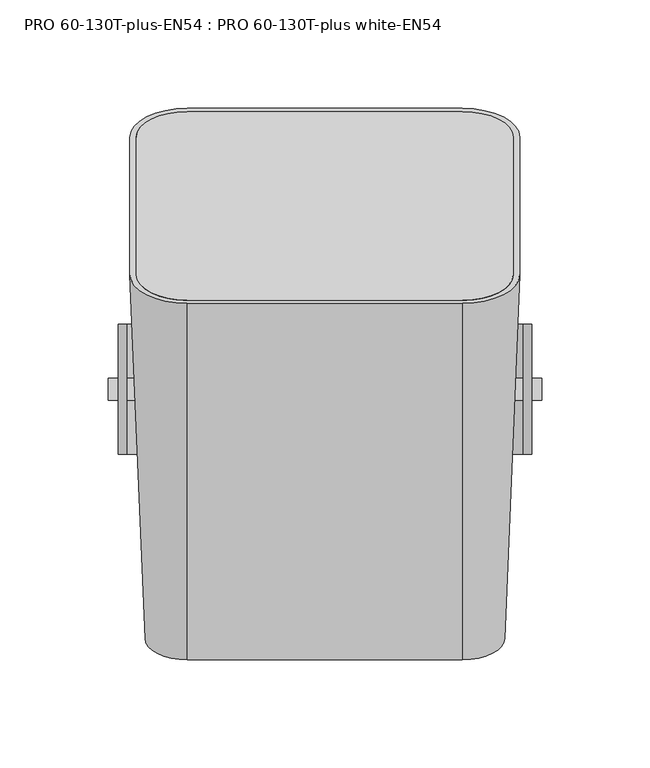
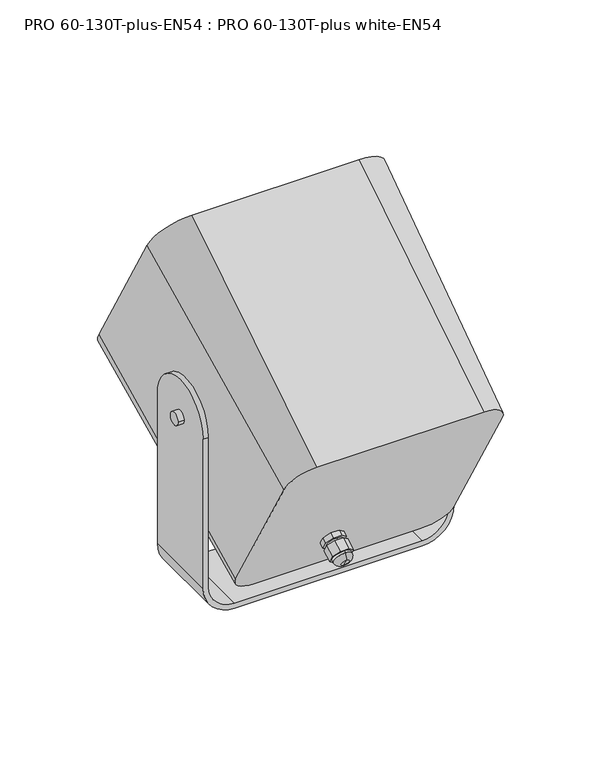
"""IFC4 building model written with IfcOpenShell, lengths in millimetres: proxy geometry, PRO 60-130T-plus-EN54 : PRO 60-130T-plus white-EN54."""

from ifc_helpers import new_model, si_unit, point, frame, frame_2d, origin, place, context, project, spatial, polyline, circle_curve, ellipse_curve, trimmed, segment, composite_curve, outline, extrude, source, transform, mapped, element, save
from ifc_brep_helpers import plane_surface, cylinder_surface, revolved_surface, advanced_brep


def pro_60_130t_plus_en54_pro_60_130t_plus_white_en54_f35f9c04(model_context):
    return source(origin(), model_context, "Body", "SolidModel", [
        advanced_brep(
        [(-6.5506555, -64.9756664, 56.0416911), (-11.236947, -67.3188122, 60.1001386), (-17.864364, -67.3188122, 60.1001386), (-22.5506555, -64.9756664, 56.0416911), (-22.5506555, -61.6619579, 50.3021797), (-17.864364, -59.3188122, 46.2437322), (-11.236947, -59.3188122, 46.2437322), (-6.5506555, -61.6619579, 50.3021797), (-14.5506555, -66.3188122, 58.3680878), (-14.5506555, -60.3188122, 47.975783), (-6.5506555, -61.5115648, 58.0416911), (-6.5506555, -58.1978563, 52.3021797), (-11.236947, -55.8547106, 48.2437322), (-17.864364, -55.8547106, 48.2437322), (-22.5506555, -58.1978563, 52.3021797), (-22.5506555, -61.5115648, 58.0416911), (-17.864364, -63.8547106, 62.1001386), (-11.236947, -63.8547106, 62.1001386), (-14.5506555, -62.050863, 46.975783), (-14.5506555, -68.050863, 57.3680878), (-6.5506555, -74.1555357, 50.7416911), (-11.236947, -76.4986814, 54.8001386), (-17.864364, -76.4986814, 54.8001386), (-22.5506555, -74.1555357, 50.7416911), (-22.5506555, -70.8418272, 45.0021797), (-17.864364, -68.4986814, 40.9437322), (-11.236947, -68.4986814, 40.9437322), (-6.5506555, -70.8418272, 45.0021797), (-14.5506555, -75.9986814, 53.9341132), (-14.5506555, -68.9986814, 41.8097576), (-6.5506555, -66.7077172, 55.0416911), (-6.5506555, -63.3940087, 49.3021797), (-11.236947, -61.050863, 45.2437322), (-17.864364, -61.050863, 45.2437322), (-22.5506555, -63.3940087, 49.3021797), (-22.5506555, -66.7077172, 55.0416911), (-17.864364, -69.050863, 59.1001386), (-11.236947, -69.050863, 59.1001386), (-14.5506555, -70.2977196, 41.0597576), (-14.5506555, -77.2977196, 53.1841132), (-14.5506555, -78.7618212, 47.7200116), (-14.5506555, -77.2618212, 45.1219354), (-14.5506555, -75.7618212, 42.5238592)],
        [
            (0, 1),
            (1, 2),
            (2, 3),
            (3, 4),
            (4, 5),
            (5, 6),
            (6, 7),
            (7, 0),
            (8, 9, circle_curve(frame((-14.5506555, -63.3188122, 53.1719354), z_axis=(0.0, 0.8660254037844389, 0.4999999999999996), x_axis=(0.0, -0.4999999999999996, 0.8660254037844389)), 6.0)),
            (9, 8, circle_curve(frame((-14.5506555, -63.3188122, 53.1719354), z_axis=(0.0, 0.8660254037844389, 0.4999999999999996), x_axis=(0.0, -0.4999999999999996, 0.8660254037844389)), 6.0)),
            (10, 11),
            (11, 12),
            (12, 13),
            (13, 14),
            (14, 15),
            (15, 16),
            (16, 17),
            (17, 10),
            (18, 19, circle_curve(frame((-14.5506555, -65.050863, 52.1719354), z_axis=(0.0, 0.8660254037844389, 0.4999999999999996), x_axis=(0.0, -0.4999999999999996, 0.8660254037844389)), 6.0)),
            (19, 8),
            (9, 18),
            (19, 18, circle_curve(frame((-14.5506555, -65.050863, 52.1719354), z_axis=(0.0, 0.8660254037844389, 0.4999999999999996), x_axis=(0.0, -0.4999999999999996, 0.8660254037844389)), 6.0)),
            (20, 21),
            (21, 22),
            (22, 23),
            (23, 24),
            (24, 25),
            (25, 26),
            (26, 27),
            (27, 20),
            (28, 29, circle_curve(frame((-14.5506555, -72.4986814, 47.8719354), z_axis=(0.0, 0.8660254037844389, 0.4999999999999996), x_axis=(0.0, -0.4999999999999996, 0.8660254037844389)), 7.0)),
            (29, 28, circle_curve(frame((-14.5506555, -72.4986814, 47.8719354), z_axis=(0.0, 0.8660254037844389, 0.4999999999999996), x_axis=(0.0, -0.4999999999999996, 0.8660254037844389)), 7.0)),
            (30, 31),
            (31, 32),
            (32, 33),
            (33, 34),
            (34, 35),
            (35, 36),
            (36, 37),
            (37, 30),
            (38, 39, circle_curve(frame((-14.5506555, -73.7977196, 47.1219354), z_axis=(0.0, 0.8660254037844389, 0.4999999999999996), x_axis=(0.0, -0.4999999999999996, 0.8660254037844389)), 7.0)),
            (39, 28),
            (29, 38),
            (39, 38, circle_curve(frame((-14.5506555, -73.7977196, 47.1219354), z_axis=(0.0, 0.8660254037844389, 0.4999999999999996), x_axis=(0.0, -0.4999999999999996, 0.8660254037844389)), 7.0)),
            (40, 41),
            (41, 42),
            (42, 40, circle_curve(frame((-14.5506555, -77.2618212, 45.1219354), z_axis=(0.0, -0.8660254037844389, -0.4999999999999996), x_axis=(0.0, 0.4999999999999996, -0.8660254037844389)), 3.0)),
            (40, 42, circle_curve(frame((-14.5506555, -77.2618212, 45.1219354), z_axis=(0.0, -0.8660254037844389, -0.4999999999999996), x_axis=(0.0, 0.4999999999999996, -0.8660254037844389)), 3.0)),
            (42, 38, circle_curve(frame((-14.5506555, -72.2977196, 44.5238592), z_axis=(1.0, 0.0, 0.0), x_axis=(0.0, -0.4999999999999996, 0.8660254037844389)), 4.0)),
            (39, 40, circle_curve(frame((-14.5506555, -75.2977196, 49.7200116), z_axis=(1.0, 0.0, 0.0), x_axis=(0.0, 0.4999999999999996, -0.8660254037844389)), 4.0)),
            (27, 31),
            (30, 20),
            (26, 32),
            (25, 33),
            (24, 34),
            (23, 35),
            (22, 36),
            (21, 37),
            (7, 11),
            (10, 0),
            (6, 12),
            (5, 13),
            (4, 14),
            (3, 15),
            (2, 16),
            (1, 17),
        ],
        [
            plane_surface(frame((-6.5506555, -64.9756664, 56.0416911), z_axis=(0.0, -0.8660254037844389, -0.4999999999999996), x_axis=(0.0, 0.4999999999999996, -0.8660254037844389))),
            plane_surface(frame((-6.5506555, -61.5115648, 58.0416911), z_axis=(0.0, 0.8660254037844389, 0.4999999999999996), x_axis=(0.0, -0.4999999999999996, 0.8660254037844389))),
            cylinder_surface(frame((-14.5506555, -59.8547106, 55.1719354), z_axis=(0.0, -0.8660254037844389, -0.4999999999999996), x_axis=(0.0, -0.4999999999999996, 0.8660254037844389)), 6.0),
            plane_surface(frame((-6.5506555, -74.1555357, 50.7416911), z_axis=(0.0, -0.8660254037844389, -0.4999999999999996), x_axis=(0.0, 0.4999999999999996, -0.8660254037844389))),
            plane_surface(frame((-6.5506555, -66.7077172, 55.0416911), z_axis=(0.0, 0.8660254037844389, 0.4999999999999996), x_axis=(0.0, -0.4999999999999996, 0.8660254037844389))),
            cylinder_surface(frame((-14.5506555, -65.050863, 52.1719354), z_axis=(0.0, -0.8660254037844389, -0.4999999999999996), x_axis=(0.0, -0.4999999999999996, 0.8660254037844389)), 7.0),
            plane_surface(frame((-14.5506555, -77.2618212, 45.1219354), z_axis=(0.0, -0.8660254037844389, -0.4999999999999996), x_axis=(0.0, 0.4999999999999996, -0.8660254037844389))),
            revolved_surface(trimmed(ellipse_curve(frame((-14.5506555, -72.2977196, 44.5238592), z_axis=(1.0, 0.0, 0.0), x_axis=(0.0, -0.4999999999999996, 0.8660254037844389)), 4.0, 4.0), [point((-14.5506555, -75.7618212, 42.5238592))], [point((-14.5506555, -70.2977196, 41.0597576))], True, "CARTESIAN"), (-14.5506555, -1970.1465392, -1047.7355661), (0.0, 0.8660254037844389, 0.4999999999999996)),
            plane_surface(frame((-6.5506555, -74.1555357, 50.7416911), z_axis=(1.0, 0.0, 0.0), x_axis=(0.0, 0.8660254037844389, 0.4999999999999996))),
            plane_surface(frame((-6.5506555, -70.8418272, 45.0021797), z_axis=(0.7071067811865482, 0.3535533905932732, -0.6123724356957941), x_axis=(0.0, 0.8660254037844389, 0.4999999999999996))),
            plane_surface(frame((-11.236947, -68.4986814, 40.9437322), z_axis=(0.0, 0.4999999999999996, -0.8660254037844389), x_axis=(0.0, 0.8660254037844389, 0.4999999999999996))),
            plane_surface(frame((-17.864364, -68.4986814, 40.9437322), z_axis=(-0.7071067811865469, 0.35355339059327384, -0.6123724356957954), x_axis=(0.0, 0.8660254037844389, 0.4999999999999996))),
            plane_surface(frame((-22.5506555, -70.8418272, 45.0021797), z_axis=(-1.0, 0.0, 0.0), x_axis=(0.0, 0.8660254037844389, 0.4999999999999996))),
            plane_surface(frame((-22.5506555, -74.1555357, 50.7416911), z_axis=(-0.7071067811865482, -0.3535533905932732, 0.6123724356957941), x_axis=(0.0, 0.8660254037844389, 0.4999999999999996))),
            plane_surface(frame((-17.864364, -76.4986814, 54.8001386), z_axis=(0.0, -0.4999999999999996, 0.8660254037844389), x_axis=(0.0, 0.8660254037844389, 0.4999999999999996))),
            plane_surface(frame((-11.236947, -76.4986814, 54.8001386), z_axis=(0.7071067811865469, -0.35355339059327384, 0.6123724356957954), x_axis=(0.0, 0.8660254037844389, 0.4999999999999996))),
            plane_surface(frame((-6.5506555, -64.9756664, 56.0416911), z_axis=(1.0, 0.0, 0.0), x_axis=(0.0, 0.8660254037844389, 0.4999999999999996))),
            plane_surface(frame((-6.5506555, -61.6619579, 50.3021797), z_axis=(0.7071067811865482, 0.35355339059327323, -0.6123724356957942), x_axis=(0.0, 0.8660254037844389, 0.4999999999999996))),
            plane_surface(frame((-11.236947, -59.3188122, 46.2437322), z_axis=(0.0, 0.4999999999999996, -0.8660254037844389), x_axis=(0.0, 0.8660254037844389, 0.4999999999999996))),
            plane_surface(frame((-17.864364, -59.3188122, 46.2437322), z_axis=(-0.7071067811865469, 0.3535533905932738, -0.6123724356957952), x_axis=(0.0, 0.8660254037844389, 0.4999999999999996))),
            plane_surface(frame((-22.5506555, -61.6619579, 50.3021797), z_axis=(-1.0, 0.0, 0.0), x_axis=(0.0, 0.8660254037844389, 0.4999999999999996))),
            plane_surface(frame((-22.5506555, -64.9756664, 56.0416911), z_axis=(-0.7071067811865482, -0.3535533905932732, 0.6123724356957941), x_axis=(0.0, 0.8660254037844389, 0.4999999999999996))),
            plane_surface(frame((-17.864364, -67.3188122, 60.1001386), z_axis=(0.0, -0.4999999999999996, 0.8660254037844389), x_axis=(0.0, 0.8660254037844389, 0.4999999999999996))),
            plane_surface(frame((-11.236947, -67.3188122, 60.1001386), z_axis=(0.707106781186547, -0.3535533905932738, 0.6123724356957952), x_axis=(0.0, 0.8660254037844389, 0.4999999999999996))),
        ],
        [
            (0, [[1, 2, 3, 4, 5, 6, 7, 8], [9, 10]]),
            (1, [[11, 12, 13, 14, 15, 16, 17, 18]]),
            (2, [[19, 20, -10, 21]]),
            (2, [[-9, -20, 22, -21]]),
            (3, [[23, 24, 25, 26, 27, 28, 29, 30], [31, 32]]),
            (4, [[33, 34, 35, 36, 37, 38, 39, 40], [-22, -19]]),
            (5, [[41, 42, -32, 43]]),
            (5, [[-31, -42, 44, -43]]),
            (6, [[45, 46, 47]]),
            (6, [[-45, 48, -46]]),
            (7, [[49, -44, 50, -47]]),
            (7, [[-50, -41, -49, -48]]),
            (8, [[51, -33, 52, -30]]),
            (9, [[53, -34, -51, -29]]),
            (10, [[54, -35, -53, -28]]),
            (11, [[55, -36, -54, -27]]),
            (12, [[56, -37, -55, -26]]),
            (13, [[57, -38, -56, -25]]),
            (14, [[58, -39, -57, -24]]),
            (15, [[-52, -40, -58, -23]]),
            (16, [[59, -11, 60, -8]]),
            (17, [[61, -12, -59, -7]]),
            (18, [[62, -13, -61, -6]]),
            (19, [[63, -14, -62, -5]]),
            (20, [[64, -15, -63, -4]]),
            (21, [[65, -16, -64, -3]]),
            (22, [[66, -17, -65, -2]]),
            (23, [[-60, -18, -66, -1]]),
        ],
    ),
        extrude(outline(composite_curve([segment(polyline([(0.0, 0.0), (-127.0, 0.0)]), True, "CONTINUOUS"), segment(trimmed(circle_curve(frame_2d((-127.0, 23.5)), 23.5), [point((-127.0, 0.0))], [point((-150.5, 23.5))], False, "CARTESIAN"), True, "CONTINUOUS"), segment(polyline([(-150.5, 23.5), (-150.5, 150.5)]), True, "CONTINUOUS"), segment(trimmed(circle_curve(frame_2d((-127.0, 150.5)), 23.5), [point((-150.5, 150.5))], [point((-127.0, 174.0))], False, "CARTESIAN"), True, "CONTINUOUS"), segment(polyline([(-127.0, 174.0), (0.0, 174.0)]), True, "CONTINUOUS"), segment(trimmed(circle_curve(frame_2d((0.0, 150.5)), 23.5), [point((0.0, 174.0))], [point((23.5, 150.5))], False, "CARTESIAN"), True, "CONTINUOUS"), segment(polyline([(23.5, 150.5), (23.5, 23.5)]), True, "CONTINUOUS"), segment(trimmed(circle_curve(frame_2d((0.0, 23.5)), 23.5), [point((23.5, 23.5))], [point((0.0, 0.0))], False, "CARTESIAN"), True, "CONTINUOUS")], self_intersect=False)), frame((87.0, 115.5379578, 137.3824259), z_axis=(0.0, 0.8660254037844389, 0.4999999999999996), x_axis=(0.0, 0.4999999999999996, -0.8660254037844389)), (0.0, 0.0, 1.0), 1.0),
        extrude(outline(composite_curve([segment(polyline([(0.0, 0.0), (-127.0, 0.0)]), True, "CONTINUOUS"), segment(trimmed(circle_curve(frame_2d((-127.0, 23.5)), 23.5), [point((-127.0, 0.0))], [point((-150.5, 23.5))], False, "CARTESIAN"), True, "CONTINUOUS"), segment(polyline([(-150.5, 23.5), (-150.5, 150.5)]), True, "CONTINUOUS"), segment(trimmed(circle_curve(frame_2d((-127.0, 150.5)), 23.5), [point((-150.5, 150.5))], [point((-127.0, 174.0))], False, "CARTESIAN"), True, "CONTINUOUS"), segment(polyline([(-127.0, 174.0), (0.0, 174.0)]), True, "CONTINUOUS"), segment(trimmed(circle_curve(frame_2d((0.0, 150.5)), 23.5), [point((0.0, 174.0))], [point((23.5, 150.5))], False, "CARTESIAN"), True, "CONTINUOUS"), segment(polyline([(23.5, 150.5), (23.5, 23.5)]), True, "CONTINUOUS"), segment(trimmed(circle_curve(frame_2d((0.0, 23.5)), 23.5), [point((23.5, 23.5))], [point((0.0, 0.0))], False, "CARTESIAN"), True, "CONTINUOUS")], self_intersect=False)), frame((87.0, 112.9398816, 135.8824259), z_axis=(0.0, 0.8660254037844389, 0.4999999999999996), x_axis=(0.0, 0.4999999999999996, -0.8660254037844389)), (0.0, 0.0, 1.0), 1.0),
        advanced_brep(
        [(63.5, -124.8547301, 167.7552717), (-63.5, -124.8547301, 167.7552717), (-83.0, -115.1047301, 150.8677764), (-83.0, -51.6047301, 40.8825501), (-63.5, -41.8547301, 23.9950547), (63.5, -41.8547301, 23.9950547), (83.0, -51.6047301, 40.8825501), (83.0, -115.1047301, 150.8677764), (63.5, 39.6539832, 270.8173254), (90.0, 52.9039832, 247.8676522), (90.0, 116.4039832, 137.8824259), (63.5, 129.6539832, 114.9327527), (-63.5, 129.6539832, 114.9327527), (-90.0, 116.4039832, 137.8824259), (-90.0, 52.9039832, 247.8676522), (-63.5, 39.6539832, 270.8173254), (87.0, 52.9039832, 247.8676522), (63.5, 41.1539832, 268.2192492), (-63.5, 41.1539832, 268.2192492), (-87.0, 52.9039832, 247.8676522), (-87.0, 116.4039832, 137.8824259), (-63.5, 128.1539832, 117.5308289), (63.5, 128.1539832, 117.5308289), (87.0, 116.4039832, 137.8824259), (87.0, 49.4398816, 245.8676522), (87.0, 112.9398816, 135.8824259), (63.5, 124.6898816, 115.5308289), (-63.5, 124.6898816, 115.5308289), (-87.0, 112.9398816, 135.8824259), (-87.0, 49.4398816, 245.8676522), (-63.5, 37.6898816, 266.2192492), (63.5, 37.6898816, 266.2192492)],
        [
            (0, 1),
            (1, 2, circle_curve(frame((-63.5, -115.1047301, 150.8677764), z_axis=(0.0, -0.8660254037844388, -0.49999999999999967), x_axis=(-1.0, 0.0, 0.0)), 19.5)),
            (2, 3),
            (3, 4, circle_curve(frame((-63.5, -51.6047301, 40.8825501), z_axis=(0.0, -0.866025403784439, -0.49999999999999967), x_axis=(0.0, 0.5000000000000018, -0.8660254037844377)), 19.5)),
            (4, 5),
            (5, 6, circle_curve(frame((63.5, -51.6047301, 40.8825501), z_axis=(0.0, -0.866025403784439, -0.49999999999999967), x_axis=(1.0, 0.0, 0.0)), 19.5)),
            (6, 7),
            (7, 0, circle_curve(frame((63.5, -115.1047301, 150.8677764), z_axis=(0.0, -0.8660254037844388, -0.49999999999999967), x_axis=(0.0, -0.4999999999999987, 0.8660254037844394)), 19.5)),
            (8, 9, circle_curve(frame((63.5, 52.9039832, 247.8676522), z_axis=(0.0, 0.8660254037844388, 0.49999999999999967), x_axis=(0.0, -0.4999999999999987, 0.8660254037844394)), 26.5)),
            (9, 10),
            (10, 11, circle_curve(frame((63.5, 116.4039832, 137.8824259), z_axis=(0.0, 0.866025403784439, 0.49999999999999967), x_axis=(1.0, 0.0, 0.0)), 26.5)),
            (11, 12),
            (12, 13, circle_curve(frame((-63.5, 116.4039832, 137.8824259), z_axis=(0.0, 0.866025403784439, 0.49999999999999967), x_axis=(0.0, 0.5000000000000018, -0.8660254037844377)), 26.5)),
            (13, 14),
            (14, 15, circle_curve(frame((-63.5, 52.9039832, 247.8676522), z_axis=(0.0, 0.8660254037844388, 0.49999999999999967), x_axis=(-1.0, 0.0, 0.0)), 26.5)),
            (15, 8),
            (16, 17, circle_curve(frame((63.5, 52.9039832, 247.8676522), z_axis=(0.0, -0.8660254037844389, -0.4999999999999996), x_axis=(0.0, -0.4999999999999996, 0.8660254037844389)), 23.5)),
            (17, 18),
            (18, 19, circle_curve(frame((-63.5, 52.9039832, 247.8676522), z_axis=(0.0, -0.8660254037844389, -0.4999999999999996), x_axis=(-1.0, 0.0, 0.0)), 23.5)),
            (19, 20),
            (20, 21, circle_curve(frame((-63.5, 116.4039832, 137.8824259), z_axis=(0.0, -0.8660254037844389, -0.4999999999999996), x_axis=(0.0, 0.4999999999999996, -0.8660254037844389)), 23.5)),
            (21, 22),
            (22, 23, circle_curve(frame((63.5, 116.4039832, 137.8824259), z_axis=(0.0, -0.8660254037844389, -0.4999999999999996), x_axis=(1.0, 0.0, 0.0)), 23.5)),
            (23, 16),
            (0, 8),
            (15, 1),
            (14, 2),
            (13, 3),
            (12, 4),
            (11, 5),
            (10, 6),
            (9, 7),
            (24, 25),
            (25, 26, circle_curve(frame((63.5, 112.9398816, 135.8824259), z_axis=(0.0, 0.8660254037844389, 0.4999999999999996), x_axis=(1.0, 0.0, 0.0)), 23.5)),
            (26, 27),
            (27, 28, circle_curve(frame((-63.5, 112.9398816, 135.8824259), z_axis=(0.0, 0.8660254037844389, 0.4999999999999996), x_axis=(0.0, 0.4999999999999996, -0.8660254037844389)), 23.5)),
            (28, 29),
            (29, 30, circle_curve(frame((-63.5, 49.4398816, 245.8676522), z_axis=(0.0, 0.8660254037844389, 0.4999999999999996), x_axis=(-1.0, 0.0, 0.0)), 23.5)),
            (30, 31),
            (31, 24, circle_curve(frame((63.5, 49.4398816, 245.8676522), z_axis=(0.0, 0.8660254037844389, 0.4999999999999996), x_axis=(0.0, -0.4999999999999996, 0.8660254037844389)), 23.5)),
            (24, 16),
            (23, 25),
            (22, 26),
            (21, 27),
            (20, 28),
            (19, 29),
            (18, 30),
            (17, 31),
        ],
        [
            plane_surface(frame((0.0, -83.3547301, 95.8751632), z_axis=(0.0, -0.8660254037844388, -0.4999999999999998), x_axis=(0.0, 0.4999999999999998, -0.8660254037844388))),
            plane_surface(frame((0.0, 84.6539832, 192.8750391), z_axis=(0.0, 0.8660254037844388, 0.4999999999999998), x_axis=(0.0, 0.4999999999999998, -0.8660254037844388))),
            plane_surface(frame((0.0, 39.6539832, 270.8173254), z_axis=(0.0, -0.530902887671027, 0.8474326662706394), x_axis=(1.0, 0.0, 0.0))),
            revolved_surface(polyline([(-63.5, -124.85473011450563, 167.7552717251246), (-63.5, 39.65398320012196, 270.8173254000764)]), (-63.5, -583.1290029, -119.3461635), (0.0, 0.8660254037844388, 0.49999999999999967)),
            plane_surface(frame((-90.0, 84.6539832, 192.8750391), z_axis=(-0.9993496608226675, -0.03122805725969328, -0.01802952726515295), x_axis=(0.0, -0.4999999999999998, 0.8660254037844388))),
            revolved_surface(polyline([(-83.00000000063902, -51.604730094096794, 40.8825500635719), (-90.00000000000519, 116.40398320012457, 137.8824259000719)]), (-63.5, -519.6290029, -229.3313898), (0.0, 0.8660254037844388, 0.49999999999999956)),
            plane_surface(frame((0.0, 129.6539832, 114.9327527), z_axis=(0.0, 0.4684467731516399, -0.8834917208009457), x_axis=(-1.0, 0.0, 0.0))),
            revolved_surface(polyline([(63.5, -41.85473009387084, 23.995054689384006), (63.5, 129.65398319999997, 114.93275269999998)]), (63.5, -519.6290029, -229.3313898), (0.0, 0.8660254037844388, 0.49999999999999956)),
            plane_surface(frame((90.0, 84.6539832, 192.8750391), z_axis=(0.9993496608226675, -0.031228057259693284, -0.018029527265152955), x_axis=(0.0, 0.4999999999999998, -0.8660254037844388))),
            revolved_surface(polyline([(82.99999999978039, -115.1047301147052, 150.86777635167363), (90.0, 52.90398319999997, 247.8676522)]), (63.5, -583.1290029, -119.3461635), (0.0, 0.8660254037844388, 0.49999999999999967)),
            plane_surface(frame((87.0, 112.9398816, 135.8824259), z_axis=(0.0, 0.8660254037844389, 0.4999999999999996), x_axis=(0.0, 0.4999999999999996, -0.8660254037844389))),
            plane_surface(frame((87.0, 49.4398816, 245.8676522), z_axis=(-1.0, 0.0, 0.0), x_axis=(0.0, 0.8660254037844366, 0.5000000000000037))),
            revolved_surface(polyline([(87.0, 112.939881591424, 135.88242590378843), (87.0, 116.4039832, 137.8824259)]), (63.5, 116.4039832, 137.8824259), (0.0, -0.8660254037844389, -0.4999999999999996)),
            plane_surface(frame((63.5, 124.6898816, 115.5308289), z_axis=(0.0, -0.49999999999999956, 0.8660254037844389), x_axis=(0.0, 0.8660254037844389, 0.49999999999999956))),
            revolved_surface(polyline([(-63.5, 124.689881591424, 115.5308289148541), (-63.5, 128.1539832, 117.53082891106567)]), (-63.5, 116.4039832, 137.8824259), (0.0, -0.8660254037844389, -0.4999999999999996)),
            plane_surface(frame((-87.0, 112.9398816, 135.8824259), z_axis=(1.0, 0.0, 0.0), x_axis=(0.0, 0.8660254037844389, 0.49999999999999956))),
            revolved_surface(polyline([(-87.0, 49.43988159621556, 245.86765220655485), (-87.0, 52.903983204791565, 247.8676522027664)]), (-63.5, 52.9039832, 247.8676522), (0.0, -0.8660254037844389, -0.4999999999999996)),
            plane_surface(frame((-63.5, 37.6898816, 266.2192492), z_axis=(0.0, 0.4999999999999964, -0.8660254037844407), x_axis=(0.0, 0.8660254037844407, 0.4999999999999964))),
            revolved_surface(polyline([(63.5, 37.689881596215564, 266.21924919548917), (63.5, 41.15398320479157, 268.2192491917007)]), (63.5, 52.9039832, 247.8676522), (0.0, -0.8660254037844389, -0.4999999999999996)),
        ],
        [
            (0, [[1, 2, 3, 4, 5, 6, 7, 8]]),
            (1, [[9, 10, 11, 12, 13, 14, 15, 16], [17, 18, 19, 20, 21, 22, 23, 24]]),
            (2, [[25, -16, 26, -1]]),
            (3, [[-26, -15, 27, -2]]),
            (4, [[-27, -14, 28, -3]]),
            (5, [[-28, -13, 29, -4]]),
            (6, [[-29, -12, 30, -5]]),
            (7, [[-30, -11, 31, -6]]),
            (8, [[-31, -10, 32, -7]]),
            (9, [[-32, -9, -25, -8]]),
            (10, [[33, 34, 35, 36, 37, 38, 39, 40]]),
            (11, [[41, -24, 42, -33]]),
            (12, [[-42, -23, 43, -34]]),
            (13, [[-43, -22, 44, -35]]),
            (14, [[-44, -21, 45, -36]]),
            (15, [[-45, -20, 46, -37]]),
            (16, [[-46, -19, 47, -38]]),
            (17, [[-47, -18, 48, -39]]),
            (18, [[-48, -17, -41, -40]]),
        ],
    ),
        extrude(outline(composite_curve([segment(trimmed(circle_curve(frame_2d((0.0, 144.0000391)), 5.0), [point((5.0, 144.0000391))], [point((-5.0, 144.0000391))], False, "CARTESIAN"), True, "CONTINUOUS"), segment(trimmed(circle_curve(frame_2d((0.0, 144.0000391)), 5.0), [point((-5.0, 144.0000391))], [point((5.0, 144.0000391))], False, "CARTESIAN"), True, "CONTINUOUS")], self_intersect=False)), frame((-100.0, 0.0, 0.0), z_axis=(1.0, 0.0, 0.0), x_axis=(0.0, 1.0, 0.0)), (0.0, 0.0, 1.0), 200.0),
        advanced_brep(
        [(-71.5, 30.0, 0.0), (-95.5, 30.0, 24.0), (-95.5, 30.0, 144.0000391), (-91.5, 30.0, 144.0000391), (-91.5, 30.0, 24.0), (-71.5, 30.0, 4.0), (71.5000503, 30.0, 4.0), (91.4998435, 30.0, 23.9997932), (91.4998435, 30.0, 144.0000391), (95.4998435, 30.0, 144.0000391), (95.4998435, 30.0, 23.9997932), (71.5000503, 30.0, 0.0), (-71.5, -30.0, 0.0), (71.5000503, -30.0, 0.0), (95.4998435, -30.0, 23.9997932), (95.4998435, -30.0, 144.0000391), (91.4998435, -30.0, 144.0000391), (91.4998435, -30.0, 23.9997932), (71.5000503, -30.0, 4.0), (-71.5, -30.0, 4.0), (-91.5, -30.0, 24.0), (-91.5, -30.0, 144.0000391), (-95.5, -30.0, 144.0000391), (-95.5, -30.0, 24.0), (95.4998435, 0.0, 174.0000391), (91.4998435, 0.0, 174.0000391), (-91.5, 0.0, 174.0000391), (-95.5, 0.0, 174.0000391)],
        [
            (0, 1, circle_curve(frame((-71.5, 30.0, 24.0), z_axis=(0.0, 1.0, 0.0), x_axis=(1.0, 0.0, 0.0)), 24.0)),
            (1, 2),
            (2, 3),
            (3, 4),
            (4, 5, circle_curve(frame((-71.5, 30.0, 24.0), z_axis=(0.0, -1.0, 0.0), x_axis=(1.0, 0.0, 0.0)), 20.0)),
            (5, 6),
            (6, 7, circle_curve(frame((71.5000503, 30.0, 23.9997932), z_axis=(0.0, -1.0, 0.0), x_axis=(1.0, 0.0, 0.0)), 19.9997932)),
            (7, 8),
            (8, 9),
            (9, 10),
            (10, 11, circle_curve(frame((71.5000503, 30.0, 23.9997932), z_axis=(0.0, 1.0, 0.0), x_axis=(1.0, 0.0, 0.0)), 23.9997932)),
            (11, 0),
            (12, 13),
            (13, 14, circle_curve(frame((71.5000503, -30.0, 23.9997932), z_axis=(0.0, -1.0, 0.0), x_axis=(1.0, 0.0, 0.0)), 23.9997932)),
            (14, 15),
            (15, 16),
            (16, 17),
            (17, 18, circle_curve(frame((71.5000503, -30.0, 23.9997932), z_axis=(0.0, 1.0, 0.0), x_axis=(1.0, 0.0, 0.0)), 19.9997932)),
            (18, 19),
            (19, 20, circle_curve(frame((-71.5, -30.0, 24.0), z_axis=(0.0, 1.0, 0.0), x_axis=(1.0, 0.0, 0.0)), 20.0)),
            (20, 21),
            (21, 22),
            (22, 23),
            (23, 12, circle_curve(frame((-71.5, -30.0, 24.0), z_axis=(0.0, -1.0, 0.0), x_axis=(1.0, 0.0, 0.0)), 24.0)),
            (11, 13),
            (12, 0),
            (10, 14),
            (9, 24, circle_curve(frame((95.4998435, 0.0, 144.0000391), z_axis=(1.0, 0.0, 0.0), x_axis=(0.0, -1.0, 0.0)), 30.0)),
            (24, 15, circle_curve(frame((95.4998435, 0.0, 144.0000391), z_axis=(1.0, 0.0, 0.0), x_axis=(0.0, -1.0, 0.0)), 30.0)),
            (16, 25, circle_curve(frame((91.4998435, 0.0, 144.0000391), z_axis=(-1.0, 0.0, 0.0), x_axis=(0.0, -1.0, 0.0)), 30.0)),
            (25, 8, circle_curve(frame((91.4998435, 0.0, 144.0000391), z_axis=(-1.0, 0.0, 0.0), x_axis=(0.0, -1.0, 0.0)), 30.0)),
            (7, 17),
            (6, 18),
            (5, 19),
            (4, 20),
            (3, 26, circle_curve(frame((-91.5, 0.0, 144.0000391), z_axis=(1.0, 0.0, 0.0), x_axis=(0.0, -1.0, 0.0)), 30.0)),
            (26, 21, circle_curve(frame((-91.5, 0.0, 144.0000391), z_axis=(1.0, 0.0, 0.0), x_axis=(0.0, -1.0, 0.0)), 30.0)),
            (22, 27, circle_curve(frame((-95.5, 0.0, 144.0000391), z_axis=(-1.0, 0.0, 0.0), x_axis=(0.0, -1.0, 0.0)), 30.0)),
            (27, 2, circle_curve(frame((-95.5, 0.0, 144.0000391), z_axis=(-1.0, 0.0, 0.0), x_axis=(0.0, -1.0, 0.0)), 30.0)),
            (1, 23),
        ],
        [
            plane_surface(frame((71.5000503, 30.0, 0.0), z_axis=(0.0, 1.0, 0.0), x_axis=(1.0, 0.0, 0.0))),
            plane_surface(frame((71.5000503, -30.0, 0.0), z_axis=(0.0, -1.0, 0.0), x_axis=(-1.0, 0.0, 0.0))),
            plane_surface(frame((-71.5, 30.0, 0.0), z_axis=(0.0, 0.0, -1.0), x_axis=(0.0, -1.0, 0.0))),
            cylinder_surface(frame((71.5000503, -30.0, 23.9997932), z_axis=(0.0, 1.0, 0.0), x_axis=(1.0, 0.0, 0.0)), 23.9997932),
            plane_surface(frame((95.4998435, 30.0, 23.9997932), z_axis=(1.0, 0.0, 0.0), x_axis=(0.0, -1.0, 0.0))),
            plane_surface(frame((91.4998435, 30.0, 174.0000391), z_axis=(-1.0, 0.0, 0.0), x_axis=(0.0, -1.0, 0.0))),
            revolved_surface(polyline([(91.4998435, -30.0, 23.9997932), (91.4998435, 30.0, 23.9997932)]), (71.5000503, -30.0, 23.9997932), (0.0, -1.0, 0.0)),
            plane_surface(frame((71.5000503, 30.0, 4.0), z_axis=(0.0, 0.0, 1.0), x_axis=(0.0, -1.0, 0.0))),
            revolved_surface(polyline([(-51.5, -30.0, 24.0), (-51.5, 30.0, 24.0)]), (-71.5, -30.0, 24.0), (0.0, -1.0, 0.0)),
            plane_surface(frame((-91.5, 30.0, 24.0), z_axis=(1.0, 0.0, 0.0), x_axis=(0.0, -1.0, 0.0))),
            plane_surface(frame((-95.5, 30.0, 174.0000391), z_axis=(-1.0, 0.0, 0.0), x_axis=(0.0, -1.0, 0.0))),
            cylinder_surface(frame((-71.5, -30.0, 24.0), z_axis=(0.0, 1.0, 0.0), x_axis=(1.0, 0.0, 0.0)), 24.0),
            cylinder_surface(frame((-100.0, 0.0, 144.0000391), z_axis=(-1.0, 0.0, 0.0), x_axis=(0.0, -1.0, 0.0)), 30.0),
        ],
        [
            (0, [[1, 2, 3, 4, 5, 6, 7, 8, 9, 10, 11, 12]]),
            (1, [[13, 14, 15, 16, 17, 18, 19, 20, 21, 22, 23, 24]]),
            (2, [[25, -13, 26, -12]]),
            (3, [[27, -14, -25, -11]]),
            (4, [[-10, 28, 29, -15, -27]]),
            (5, [[-17, 30, 31, -8, 32]]),
            (6, [[33, -18, -32, -7]]),
            (7, [[34, -19, -33, -6]]),
            (8, [[35, -20, -34, -5]]),
            (9, [[-4, 36, 37, -21, -35]]),
            (10, [[-23, 38, 39, -2, 40]]),
            (11, [[-26, -24, -40, -1]]),
            (12, [[-31, -30, -16, -29, -28, -9]]),
            (12, [[-39, -38, -22, -37, -36, -3]]),
        ],
    ),
    ])


if __name__ == "__main__":
    model = new_model("IFC4")
    model_context = context("Model", 3, world=origin())
    ifc_project = project(units=[si_unit("LENGTHUNIT", "METRE", prefix="MILLI")], contexts=[model_context])
    site = spatial("IfcSite", under=ifc_project)
    building = spatial("IfcBuilding", under=site)
    placement = place(None, origin())
    pro_60_130t_plus_en54_pro_60_130t_plus_white_en54_shape = pro_60_130t_plus_en54_pro_60_130t_plus_white_en54_f35f9c04(model_context)
    element("IfcBuildingElementProxy", 1, Name="PRO 60-130T-plus-EN54 : PRO 60-130T-plus white-EN54", ObjectType="PRO 60-130T-plus-EN54 : PRO 60-130T-plus white-EN54", at=placement, inside=building, context=model_context, shape_type="MappedRepresentation", body=[
        mapped(pro_60_130t_plus_en54_pro_60_130t_plus_white_en54_shape, transform((0.0, 0.0, 0.0), x_axis=(1.0, 0.0, 0.0), y_axis=(0.0, 1.0, 0.0), z_axis=(0.0, 0.0, 1.0))),
    ])
    save(model, "model.ifc")
